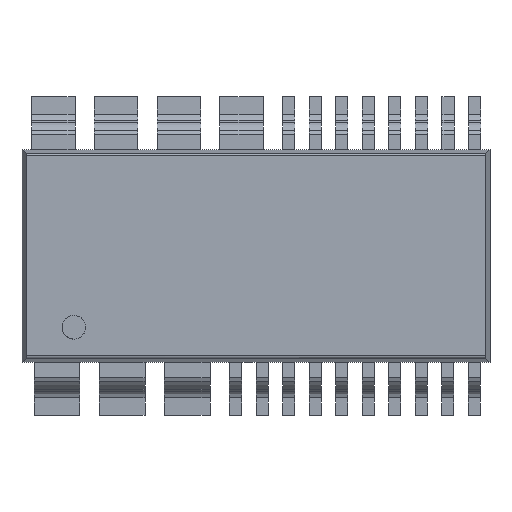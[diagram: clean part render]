
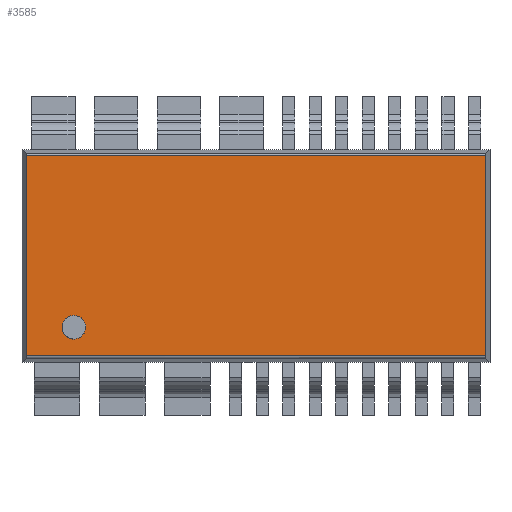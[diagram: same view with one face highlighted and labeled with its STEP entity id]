
A CAD part, top view. The second image highlights one B-rep face of the part: STEP entity #3585.
In plain terms, the highlighted planar face has unit normal (0, 0, 1).
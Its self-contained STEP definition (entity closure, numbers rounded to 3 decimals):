
#3585 = ADVANCED_FACE('',(#3586,#3614),#3599,.T.);
#3586 = FACE_BOUND('',#3587,.T.);
#3587 = EDGE_LOOP('',(#3588));
#3588 = ORIENTED_EDGE('',*,*,#3589,.T.);
#3589 = EDGE_CURVE('',#3590,#3590,#3592,.T.);
#3590 = VERTEX_POINT('',#3591);
#3591 = CARTESIAN_POINT('',(38.669,99.716,0.3));
#3592 = SURFACE_CURVE('',#3593,(#3598),.PCURVE_S1.);
#3593 = ELLIPSE('',#3594,0.245,0.245);
#3594 = AXIS2_PLACEMENT_3D('',#3595,#3596,#3597);
#3595 = CARTESIAN_POINT('',(38.914,99.716,0.3));
#3596 = DIRECTION('',(0.,0.,-1.));
#3597 = DIRECTION('',(-1.,0.,0.));
#3598 = PCURVE('',#3599,#3604);
#3599 = PLANE('',#3600);
#3600 = AXIS2_PLACEMENT_3D('',#3601,#3602,#3603);
#3601 = CARTESIAN_POINT('',(42.69,101.195,0.3));
#3602 = DIRECTION('',(0.,0.,1.));
#3603 = DIRECTION('',(1.,0.,0.));
#3604 = DEFINITIONAL_REPRESENTATION('',(#3605),#3613);
#3605 = ( BOUNDED_CURVE() B_SPLINE_CURVE(2,(#3606,#3607,#3608,#3609,
#3610,#3611,#3612),.UNSPECIFIED.,.T.,.F.) B_SPLINE_CURVE_WITH_KNOTS((1,2
    ,2,2,2,1),(-2.094,0.,2.094,4.189,
6.283,8.378),.UNSPECIFIED.) CURVE() 
GEOMETRIC_REPRESENTATION_ITEM() RATIONAL_B_SPLINE_CURVE((1.,0.5,1.,0.5,
1.,0.5,1.)) REPRESENTATION_ITEM('') );
#3606 = CARTESIAN_POINT('',(-4.021,-1.479));
#3607 = CARTESIAN_POINT('',(-4.021,-1.054));
#3608 = CARTESIAN_POINT('',(-3.653,-1.266));
#3609 = CARTESIAN_POINT('',(-3.285,-1.479));
#3610 = CARTESIAN_POINT('',(-3.653,-1.691));
#3611 = CARTESIAN_POINT('',(-4.021,-1.904));
#3612 = CARTESIAN_POINT('',(-4.021,-1.479));
#3613 = ( GEOMETRIC_REPRESENTATION_CONTEXT(2) 
PARAMETRIC_REPRESENTATION_CONTEXT() REPRESENTATION_CONTEXT('2D SPACE',''
  ) );
#3614 = FACE_BOUND('',#3615,.T.);
#3615 = EDGE_LOOP('',(#3616,#3632,#3646,#3660));
#3616 = ORIENTED_EDGE('',*,*,#3617,.F.);
#3617 = EDGE_CURVE('',#3618,#3620,#3622,.T.);
#3618 = VERTEX_POINT('',#3619);
#3619 = CARTESIAN_POINT('',(47.44,99.121,0.3));
#3620 = VERTEX_POINT('',#3621);
#3621 = CARTESIAN_POINT('',(37.94,99.121,0.3));
#3622 = SURFACE_CURVE('',#3623,(#3626),.PCURVE_S1.);
#3623 = B_SPLINE_CURVE_WITH_KNOTS('',1,(#3624,#3625),.UNSPECIFIED.,.F.,
  .F.,(2,2),(-2.325,7.175),.PIECEWISE_BEZIER_KNOTS.);
#3624 = CARTESIAN_POINT('',(47.44,99.121,0.3));
#3625 = CARTESIAN_POINT('',(37.94,99.121,0.3));
#3626 = PCURVE('',#3599,#3627);
#3627 = DEFINITIONAL_REPRESENTATION('',(#3628),#3631);
#3628 = B_SPLINE_CURVE_WITH_KNOTS('',1,(#3629,#3630),.UNSPECIFIED.,.F.,
  .F.,(2,2),(-2.325,7.175),.PIECEWISE_BEZIER_KNOTS.);
#3629 = CARTESIAN_POINT('',(4.75,-2.074));
#3630 = CARTESIAN_POINT('',(-4.75,-2.074));
#3631 = ( GEOMETRIC_REPRESENTATION_CONTEXT(2) 
PARAMETRIC_REPRESENTATION_CONTEXT() REPRESENTATION_CONTEXT('2D SPACE',''
  ) );
#3632 = ORIENTED_EDGE('',*,*,#3633,.T.);
#3633 = EDGE_CURVE('',#3618,#3634,#3636,.T.);
#3634 = VERTEX_POINT('',#3635);
#3635 = CARTESIAN_POINT('',(47.44,103.268,0.3));
#3636 = SURFACE_CURVE('',#3637,(#3640),.PCURVE_S1.);
#3637 = B_SPLINE_CURVE_WITH_KNOTS('',1,(#3638,#3639),.UNSPECIFIED.,.F.,
  .F.,(2,2),(0.041,4.189),
  .PIECEWISE_BEZIER_KNOTS.);
#3638 = CARTESIAN_POINT('',(47.44,99.121,0.3));
#3639 = CARTESIAN_POINT('',(47.44,103.268,0.3));
#3640 = PCURVE('',#3599,#3641);
#3641 = DEFINITIONAL_REPRESENTATION('',(#3642),#3645);
#3642 = B_SPLINE_CURVE_WITH_KNOTS('',1,(#3643,#3644),.UNSPECIFIED.,.F.,
  .F.,(2,2),(0.041,4.189),
  .PIECEWISE_BEZIER_KNOTS.);
#3643 = CARTESIAN_POINT('',(4.75,-2.074));
#3644 = CARTESIAN_POINT('',(4.75,2.074));
#3645 = ( GEOMETRIC_REPRESENTATION_CONTEXT(2) 
PARAMETRIC_REPRESENTATION_CONTEXT() REPRESENTATION_CONTEXT('2D SPACE',''
  ) );
#3646 = ORIENTED_EDGE('',*,*,#3647,.T.);
#3647 = EDGE_CURVE('',#3634,#3648,#3650,.T.);
#3648 = VERTEX_POINT('',#3649);
#3649 = CARTESIAN_POINT('',(37.94,103.268,0.3));
#3650 = SURFACE_CURVE('',#3651,(#3654),.PCURVE_S1.);
#3651 = B_SPLINE_CURVE_WITH_KNOTS('',1,(#3652,#3653),.UNSPECIFIED.,.F.,
  .F.,(2,2),(-2.325,7.175),.PIECEWISE_BEZIER_KNOTS.);
#3652 = CARTESIAN_POINT('',(47.44,103.268,0.3));
#3653 = CARTESIAN_POINT('',(37.94,103.268,0.3));
#3654 = PCURVE('',#3599,#3655);
#3655 = DEFINITIONAL_REPRESENTATION('',(#3656),#3659);
#3656 = B_SPLINE_CURVE_WITH_KNOTS('',1,(#3657,#3658),.UNSPECIFIED.,.F.,
  .F.,(2,2),(-2.325,7.175),.PIECEWISE_BEZIER_KNOTS.);
#3657 = CARTESIAN_POINT('',(4.75,2.074));
#3658 = CARTESIAN_POINT('',(-4.75,2.074));
#3659 = ( GEOMETRIC_REPRESENTATION_CONTEXT(2) 
PARAMETRIC_REPRESENTATION_CONTEXT() REPRESENTATION_CONTEXT('2D SPACE',''
  ) );
#3660 = ORIENTED_EDGE('',*,*,#3661,.T.);
#3661 = EDGE_CURVE('',#3648,#3620,#3662,.T.);
#3662 = SURFACE_CURVE('',#3663,(#3666),.PCURVE_S1.);
#3663 = B_SPLINE_CURVE_WITH_KNOTS('',1,(#3664,#3665),.UNSPECIFIED.,.F.,
  .F.,(2,2),(0.041,4.189),
  .PIECEWISE_BEZIER_KNOTS.);
#3664 = CARTESIAN_POINT('',(37.94,103.268,0.3));
#3665 = CARTESIAN_POINT('',(37.94,99.121,0.3));
#3666 = PCURVE('',#3599,#3667);
#3667 = DEFINITIONAL_REPRESENTATION('',(#3668),#3671);
#3668 = B_SPLINE_CURVE_WITH_KNOTS('',1,(#3669,#3670),.UNSPECIFIED.,.F.,
  .F.,(2,2),(0.041,4.189),
  .PIECEWISE_BEZIER_KNOTS.);
#3669 = CARTESIAN_POINT('',(-4.75,2.074));
#3670 = CARTESIAN_POINT('',(-4.75,-2.074));
#3671 = ( GEOMETRIC_REPRESENTATION_CONTEXT(2) 
PARAMETRIC_REPRESENTATION_CONTEXT() REPRESENTATION_CONTEXT('2D SPACE',''
  ) );
